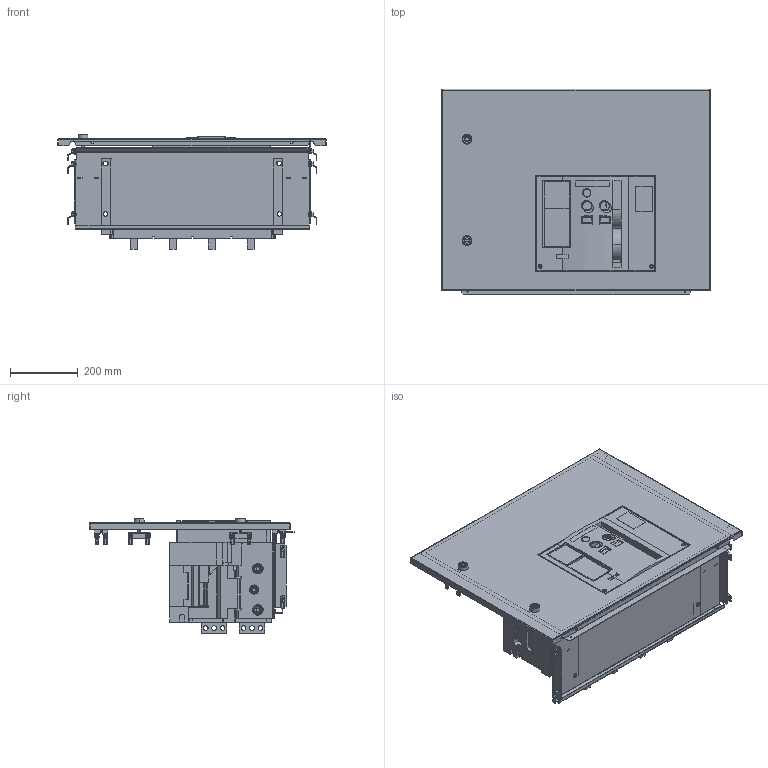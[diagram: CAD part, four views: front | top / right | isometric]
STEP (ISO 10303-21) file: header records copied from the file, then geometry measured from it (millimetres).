
FILE_DESCRIPTION(('CAx-IF Rec.Pracs.---Model Styling and Organization---1.2---2011-12-15','CAx-IF Rec.Pracs.---Geometric and Assembly Validation Properties---4.1---2014-06-16','CAx-IF Rec.Pracs.---PMI Polyline Presentation---2.0---2013-05-24'),'2;1');
FILE_NAME('R5PKEB7V811254P.stp','2021-07-29T02:59:57+03:00',(''),(''),'STEP Interface 4.4 by CT CoreTechnologie','3D_Evolution4.4 by CT CoreTechnologie','');
FILE_SCHEMA(('AUTOMOTIVE_DESIGN { 1 0 10303 214 1 1 1 1 }'));
Length unit declared in the file: millimetre
Products named in the file (1): R5PKEB7V811254P
Bounding box: 794 x 607.5 x 338.5 mm (x, y, z)
Surface area: 4174271.2 mm2 (no closed solid volume)
Topology: 0 solids, 79 shells, 4705 faces, 13015 edges, 8472 vertices
Faces by surface type: plane 2648, cylinder 1508, bspline 549
Entity records: 164547 total; most frequent: CARTESIAN_POINT 43313, ORIENTED_EDGE 25904, DIRECTION 24587, EDGE_CURVE 12952, VECTOR 8877, LINE 8877, VERTEX_POINT 8478, AXIS2_PLACEMENT_3D 7855
